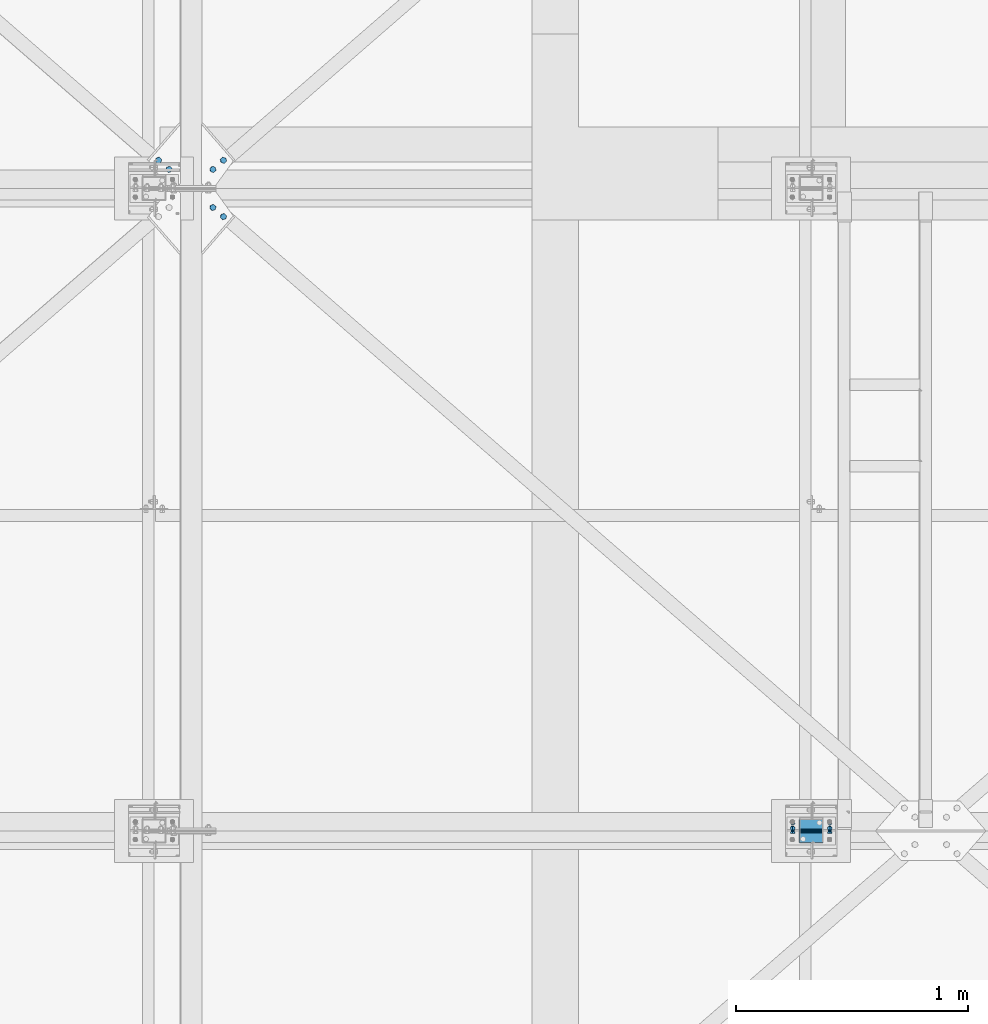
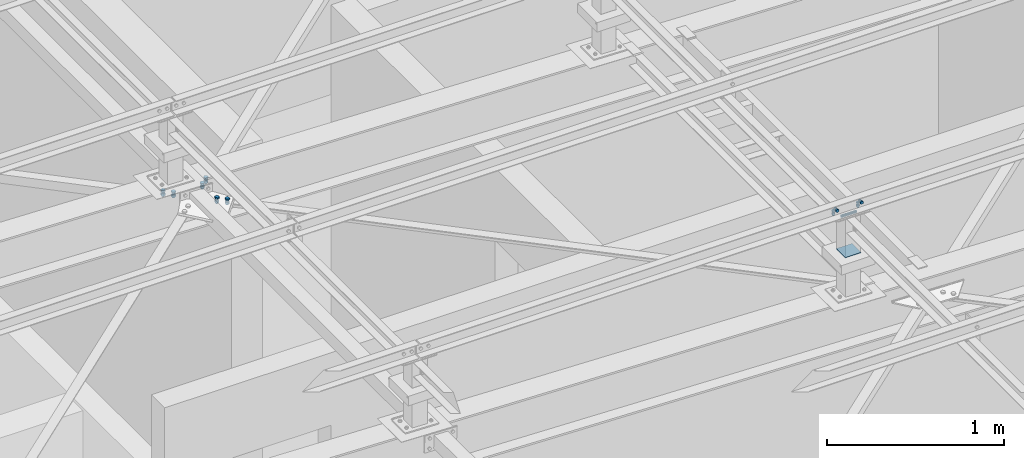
# One storey, part 242 of 3134: 7 mechanical fasteners, 4 elements without a shape of their own.
"""IFC2X3 building model written with IfcOpenShell, lengths in millimetres."""

from ifc_helpers import new_model, si_unit, frame, origin_with_axes, place, context, subcontext, project, spatial, faceted_brep, source, transform, mapped, material, type_object, element, aggregate, save


model = new_model("IFC2X3")

# Units and contexts
model_context = context("Model", 3, precision=1e-05, world=origin_with_axes())
body_context = subcontext(model_context, "Body", "Model", "MODEL_VIEW")
ifc_project = project(units=[si_unit("LENGTHUNIT", "METRE", prefix="MILLI"), si_unit("AREAUNIT", "SQUARE_METRE"), si_unit("VOLUMEUNIT", "CUBIC_METRE"), si_unit("MASSUNIT", "GRAM", prefix="KILO"), si_unit("TIMEUNIT", "SECOND"), si_unit("PLANEANGLEUNIT", "RADIAN"), si_unit("SOLIDANGLEUNIT", "STERADIAN"), si_unit("THERMODYNAMICTEMPERATUREUNIT", "DEGREE_CELSIUS"), si_unit("LUMINOUSINTENSITYUNIT", "LUMEN")], contexts=[model_context])

# Site, building, storey
site_placement = place(None, origin_with_axes())
site = spatial("IfcSite", under=ifc_project, at=site_placement, CompositionType="ELEMENT")
building_placement = place(site_placement, origin_with_axes())
building = spatial("IfcBuilding", under=site, at=building_placement, Name="Undefined", CompositionType="ELEMENT")
storey_placement = place(building_placement, origin_with_axes())
storey = spatial("IfcBuildingStorey", under=building, at=storey_placement, Name="Undefined", CompositionType="ELEMENT", Elevation=0.0)

# Assembly, mechanical fastener
assembly_1_placement = place(storey_placement, origin_with_axes())
assembly_1 = element("IfcElementAssembly", 1, at=assembly_1_placement, inside=storey, AssemblyPlace="NOTDEFINED", PredefinedType="RIGID_FRAME")
ifc_material_1 = material(Name="8.8")
mechanical_fastener_type = type_object("IfcMechanicalFastenerType", Name="Bolt assembly")
shared_shape_1 = source(origin_with_axes(), body_context, "Body", "Brep", [
    faceted_brep([(10.9696551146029, -14.0, 0.0), (5.48482755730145, -14.0, 9.5), (-5.48482755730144, -14.0, 9.5), (-10.9696551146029, -14.0, 1.34339530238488e-15), (-5.48482755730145, -14.0, -9.5), (5.48482755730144, -14.0, -9.50000000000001), (5.48482755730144, -6.0, -9.50000000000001), (-5.48482755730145, -6.0, -9.5), (-10.9696551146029, -6.0, 1.34339530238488e-15), (-5.48482755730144, -6.0, 9.5), (5.48482755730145, -6.0, 9.5), (10.9696551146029, -6.0, 0.0), (6.0, -6.0, 0.0), (5.19615242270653, -6.0, 3.00000000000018), (2.99999999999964, -6.0, 5.19615242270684), (-6.21801588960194e-13, -6.0, 6.0), (-3.00000000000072, -6.0, 5.19615242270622), (-5.19615242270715, -6.0, 2.9999999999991), (-6.0, -6.0, -1.24360317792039e-12), (-5.19615242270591, -6.0, -3.00000000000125), (-2.99999999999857, -6.0, -5.19615242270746), (1.85874342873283e-12, -6.0, -6.0), (3.00000000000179, -6.0, -5.1961524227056), (5.19615242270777, -6.0, -2.99999999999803), (5.19615242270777, 24.0, -2.99999999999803), (3.00000000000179, 24.0, -5.1961524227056), (1.85874342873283e-12, 24.0, -6.0), (-2.99999999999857, 24.0, -5.19615242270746), (-5.19615242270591, 24.0, -3.00000000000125), (-6.0, 24.0, -1.24360317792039e-12), (-5.19615242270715, 24.0, 2.9999999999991), (-3.00000000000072, 24.0, 5.19615242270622), (-6.21801588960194e-13, 24.0, 6.0), (2.99999999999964, 24.0, 5.19615242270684), (5.19615242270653, 24.0, 3.00000000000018), (6.0, 24.0, 0.0), (10.9696551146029, 6.00000000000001, 0.0), (5.48482755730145, 6.00000000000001, 9.5), (-5.48482755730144, 6.00000000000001, 9.5), (-10.9696551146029, 6.00000000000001, 1.34339530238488e-15), (-5.48482755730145, 6.00000000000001, -9.5), (5.48482755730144, 6.00000000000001, -9.50000000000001), (5.48482755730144, 16.0, -9.50000000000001), (-5.48482755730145, 16.0, -9.5), (-10.9696551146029, 16.0, 1.34339530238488e-15), (-5.48482755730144, 16.0, 9.5), (5.48482755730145, 16.0, 9.5), (10.9696551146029, 16.0, 0.0)], [[[0, 1, 2, 3, 4, 5]], [[6, 7, 8, 9, 10, 11]], [[0, 11, 10, 1]], [[1, 10, 9, 2]], [[2, 9, 8, 3]], [[3, 8, 7, 4]], [[4, 7, 6, 5]], [[5, 6, 11, 0]], [[12, 13, 14, 15, 16, 17, 18, 19, 20, 21, 22, 23]], [[24, 25, 26, 27, 28, 29, 30, 31, 32, 33, 34, 35]], [[12, 35, 34, 13]], [[13, 34, 33, 14]], [[14, 33, 32, 15]], [[15, 32, 31, 16]], [[16, 31, 30, 17]], [[17, 30, 29, 18]], [[18, 29, 28, 19]], [[19, 28, 27, 20]], [[20, 27, 26, 21]], [[21, 26, 25, 22]], [[22, 25, 24, 23]], [[23, 24, 35, 12]], [[36, 37, 38, 39, 40, 41]], [[42, 43, 44, 45, 46, 47]], [[36, 47, 46, 37]], [[37, 46, 45, 38]], [[38, 45, 44, 39]], [[39, 44, 43, 40]], [[40, 43, 42, 41]], [[41, 42, 47, 36]]]),
    faceted_brep([(7.0, -0.1, 0.0), (6.06217782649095, -0.1, 3.50000000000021), (3.49999999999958, -0.1, 6.06217782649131), (-7.25435187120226e-13, -0.1, 7.0), (-3.50000000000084, -0.1, 6.06217782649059), (-6.06217782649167, -0.1, 3.49999999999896), (-7.0, -0.1, -1.45087037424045e-12), (-6.06217782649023, -0.1, -3.50000000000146), (-3.49999999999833, -0.1, -6.06217782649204), (2.1685340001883e-12, -0.1, -7.0), (3.50000000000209, -0.1, -6.06217782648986), (6.0621778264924, -0.1, -3.4999999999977), (6.0621778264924, 6.00000000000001, -3.4999999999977), (3.50000000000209, 6.00000000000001, -6.06217782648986), (2.1685340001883e-12, 6.00000000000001, -7.0), (-3.49999999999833, 6.00000000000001, -6.06217782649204), (-6.06217782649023, 6.00000000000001, -3.50000000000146), (-7.0, 6.00000000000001, -1.45087037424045e-12), (-6.06217782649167, 6.00000000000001, 3.49999999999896), (-3.50000000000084, 6.00000000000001, 6.06217782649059), (-7.25435187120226e-13, 6.00000000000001, 7.0), (3.49999999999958, 6.00000000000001, 6.06217782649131), (6.06217782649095, 6.00000000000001, 3.50000000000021), (7.0, 6.00000000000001, 0.0), (7.0, -5.9, 0.0), (6.06217782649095, -5.9, 3.50000000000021), (3.49999999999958, -5.9, 6.06217782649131), (-7.25435187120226e-13, -5.9, 7.0), (-3.50000000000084, -5.9, 6.06217782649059), (-6.06217782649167, -5.9, 3.49999999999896), (-7.0, -5.9, -1.45087037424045e-12), (-6.06217782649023, -5.9, -3.50000000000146), (-3.49999999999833, -5.9, -6.06217782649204), (2.1685340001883e-12, -5.9, -7.0), (3.50000000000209, -5.9, -6.06217782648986), (6.0621778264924, -5.9, -3.4999999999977), (6.0621778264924, 0.0999999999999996, -3.4999999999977), (3.50000000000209, 0.0999999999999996, -6.06217782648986), (2.1685340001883e-12, 0.0999999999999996, -7.0), (-3.49999999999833, 0.0999999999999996, -6.06217782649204), (-6.06217782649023, 0.0999999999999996, -3.50000000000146), (-7.0, 0.0999999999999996, -1.45087037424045e-12), (-6.06217782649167, 0.0999999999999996, 3.49999999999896), (-3.50000000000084, 0.0999999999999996, 6.06217782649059), (-7.25435187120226e-13, 0.0999999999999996, 7.0), (3.49999999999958, 0.0999999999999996, 6.06217782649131), (6.06217782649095, 0.0999999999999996, 3.50000000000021), (7.0, 0.0999999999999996, 0.0)], [[[0, 1, 2, 3, 4, 5, 6, 7, 8, 9, 10, 11]], [[12, 13, 14, 15, 16, 17, 18, 19, 20, 21, 22, 23]], [[0, 23, 22, 1]], [[1, 22, 21, 2]], [[2, 21, 20, 3]], [[3, 20, 19, 4]], [[4, 19, 18, 5]], [[5, 18, 17, 6]], [[6, 17, 16, 7]], [[7, 16, 15, 8]], [[8, 15, 14, 9]], [[9, 14, 13, 10]], [[10, 13, 12, 11]], [[11, 12, 23, 0]], [[24, 25, 26, 27, 28, 29, 30, 31, 32, 33, 34, 35]], [[36, 37, 38, 39, 40, 41, 42, 43, 44, 45, 46, 47]], [[24, 47, 46, 25]], [[25, 46, 45, 26]], [[26, 45, 44, 27]], [[27, 44, 43, 28]], [[28, 43, 42, 29]], [[29, 42, 41, 30]], [[30, 41, 40, 31]], [[31, 40, 39, 32]], [[32, 39, 38, 33]], [[33, 38, 37, 34]], [[34, 37, 36, 35]], [[35, 36, 47, 24]]]),
])
mechanical_fastener_1_placement = place(assembly_1_placement, frame((28847.0, 58255.0, 10865.0), z_axis=(1.0, 0.0, 0.0), x_axis=(0.0, -1.0, 0.0)))
mechanical_fastener_1 = element("IfcMechanicalFastener", 2, at=mechanical_fastener_1_placement, type_object=mechanical_fastener_type, material=ifc_material_1, Name="Bolt assembly", NominalDiameter=12.0, NominalLength=30.0, context=body_context, shape_type="MappedRepresentation", body=[
    mapped(shared_shape_1, transform((0.0, -5.32963895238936e-10, -79.9999999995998))),
    mapped(shared_shape_1, transform((0.0, 5.3114490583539e-10, 79.9999999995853))),
])

# Assembly, mechanical fasteners
assembly_2_placement = place(storey_placement, origin_with_axes())
assembly_2 = element("IfcElementAssembly", 3, at=assembly_2_placement, inside=storey, AssemblyPlace="NOTDEFINED", PredefinedType="RIGID_FRAME")
shared_shape_2 = source(origin_with_axes(), body_context, "Body", "Brep", [
    faceted_brep([(9.0, -50.0, 0.0), (7.79422863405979, -50.0, 4.50000000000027), (4.49999999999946, -50.0, 7.79422863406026), (-9.3270238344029e-13, -50.0, 9.0), (-4.50000000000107, -50.0, 7.79422863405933), (-7.79422863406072, -50.0, 4.49999999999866), (-9.0, -50.0, -1.86540476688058e-12), (-7.79422863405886, -50.0, -4.50000000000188), (-4.49999999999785, -50.0, -7.79422863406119), (2.78811514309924e-12, -50.0, -9.0), (4.50000000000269, -50.0, -7.7942286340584), (7.79422863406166, -50.0, -4.49999999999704), (7.79422863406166, 50.1, -4.49999999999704), (4.50000000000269, 50.1, -7.7942286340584), (2.78811514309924e-12, 50.1, -9.0), (-4.49999999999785, 50.1, -7.79422863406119), (-7.79422863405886, 50.1, -4.50000000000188), (-9.0, 50.1, -1.86540476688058e-12), (-7.79422863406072, 50.1, 4.49999999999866), (-4.50000000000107, 50.1, 7.79422863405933), (-9.3270238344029e-13, 50.1, 9.0), (4.49999999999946, 50.1, 7.79422863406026), (7.79422863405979, 50.1, 4.50000000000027), (9.0, 50.1, 0.0)], [[[0, 1, 2, 3, 4, 5, 6, 7, 8, 9, 10, 11]], [[12, 13, 14, 15, 16, 17, 18, 19, 20, 21, 22, 23]], [[0, 23, 22, 1]], [[1, 22, 21, 2]], [[2, 21, 20, 3]], [[3, 20, 19, 4]], [[4, 19, 18, 5]], [[5, 18, 17, 6]], [[6, 17, 16, 7]], [[7, 16, 15, 8]], [[8, 15, 14, 9]], [[9, 14, 13, 10]], [[10, 13, 12, 11]], [[11, 12, 23, 0]]]),
])
mechanical_fastener_2_placement = place(assembly_2_placement, frame((28847.0, 58220.0, 10845.0), z_axis=(0.0, 1.0, 0.0), x_axis=(0.0, 0.0, 1.0)))
mechanical_fastener_2 = element("IfcMechanicalFastener", 4, at=mechanical_fastener_2_placement, type_object=mechanical_fastener_type, material=ifc_material_1, Name="Bolt assembly", NominalDiameter=16.0, NominalLength=100.0, context=body_context, shape_type="MappedRepresentation", body=[
    mapped(shared_shape_2, transform((0.0, 0.0, 0.0))),
])
ifc_material_2 = material(Name="6.8")
shared_shape_3 = source(origin_with_axes(), body_context, "Body", "Brep", [
    faceted_brep([(51.5, 1.36424205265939e-12, 50.0), (51.3858192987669, 1.36424205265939e-12, 50.5740251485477), (51.0606601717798, 1.36424205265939e-12, 51.0606601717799), (50.5740251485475, 1.36424205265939e-12, 51.385819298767), (-50.0000000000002, 1.36424205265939e-12, 51.5), (-50.7500000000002, 1.36424205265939e-12, 51.2990381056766), (-51.2990381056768, 1.36424205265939e-12, 50.7499999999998), (-51.5, 1.36424205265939e-12, 49.9999999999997), (-51.5, 1.36424205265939e-12, -50.0000000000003), (-51.2990381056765, 1.36424205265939e-12, -50.7500000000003), (-50.7499999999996, 1.36424205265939e-12, -51.2990381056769), (-49.9999999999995, 1.36424205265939e-12, -51.5), (50.0000000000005, 1.36424205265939e-12, -51.5), (50.7500000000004, 1.36424205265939e-12, -51.2990381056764), (51.2990381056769, 1.36424205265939e-12, -50.7499999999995), (51.5, 1.36424205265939e-12, -49.9999999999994), (51.5, 5.10000000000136, -49.9999999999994), (51.2990381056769, 5.10000000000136, -50.7499999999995), (50.7500000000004, 5.10000000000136, -51.2990381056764), (50.0000000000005, 5.10000000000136, -51.5), (-49.9999999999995, 5.10000000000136, -51.5), (-50.7499999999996, 5.10000000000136, -51.2990381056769), (-51.2990381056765, 5.10000000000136, -50.7500000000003), (-51.5, 5.10000000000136, -50.0000000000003), (-51.5, 5.10000000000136, 49.9999999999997), (-51.2990381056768, 5.10000000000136, 50.7499999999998), (-50.7500000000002, 5.10000000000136, 51.2990381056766), (-50.0000000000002, 5.10000000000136, 51.5), (50.5740251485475, 5.10000000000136, 51.385819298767), (51.0606601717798, 5.10000000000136, 51.0606601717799), (51.3858192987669, 5.10000000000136, 50.5740251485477), (51.5, 5.10000000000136, 50.0)], [[[0, 1, 2, 3, 4, 5, 6, 7, 8, 9, 10, 11, 12, 13, 14, 15]], [[16, 17, 18, 19, 20, 21, 22, 23, 24, 25, 26, 27, 28, 29, 30, 31]], [[0, 31, 30, 1]], [[1, 30, 29, 2]], [[2, 29, 28, 3]], [[3, 28, 27, 4]], [[4, 27, 26, 5]], [[5, 26, 25, 6]], [[6, 25, 24, 7]], [[7, 24, 23, 8]], [[8, 23, 22, 9]], [[9, 22, 21, 10]], [[10, 21, 20, 11]], [[11, 20, 19, 12]], [[12, 19, 18, 13]], [[13, 18, 17, 14]], [[14, 17, 16, 15]], [[15, 16, 31, 0]]]),
])
mechanical_fastener_3_placement = place(assembly_2_placement, frame((28847.0, 58220.0, 10591.54), z_axis=(0.0, -1.0, 0.0), x_axis=(-1.0, 0.0, 0.0)))
mechanical_fastener_3 = element("IfcMechanicalFastener", 5, at=mechanical_fastener_3_placement, type_object=mechanical_fastener_type, material=ifc_material_2, Name="Bolt assembly", NominalDiameter=10.0, NominalLength=5.0, context=body_context, shape_type="MappedRepresentation", body=[
    mapped(shared_shape_3, transform((0.0, 0.0, 0.0))),
])
aggregate(assembly_2, [mechanical_fastener_2, mechanical_fastener_3])

# Mechanical fastener
shared_shape_4 = source(origin_with_axes(), body_context, "Body", "Brep", [
    faceted_brep([(10.9696551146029, -12.0, 0.0), (5.48482755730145, -12.0, 9.5), (-5.48482755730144, -12.0, 9.5), (-10.9696551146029, -12.0, 1.34339530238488e-15), (-5.48482755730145, -12.0, -9.5), (5.48482755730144, -12.0, -9.50000000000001), (5.48482755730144, -4.0, -9.50000000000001), (-5.48482755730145, -4.0, -9.5), (-10.9696551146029, -4.0, 1.34339530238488e-15), (-5.48482755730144, -4.0, 9.5), (5.48482755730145, -4.0, 9.5), (10.9696551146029, -4.0, 0.0), (6.0, -4.0, 0.0), (5.19615242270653, -4.0, 3.00000000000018), (2.99999999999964, -4.0, 5.19615242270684), (-6.21801588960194e-13, -4.0, 6.0), (-3.00000000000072, -4.0, 5.19615242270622), (-5.19615242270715, -4.0, 2.9999999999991), (-6.0, -4.0, -1.24360317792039e-12), (-5.19615242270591, -4.0, -3.00000000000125), (-2.99999999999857, -4.0, -5.19615242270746), (1.85874342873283e-12, -4.0, -6.0), (3.00000000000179, -4.0, -5.1961524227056), (5.19615242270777, -4.0, -2.99999999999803), (5.19615242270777, 21.0, -2.99999999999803), (3.00000000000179, 21.0, -5.1961524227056), (1.85874342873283e-12, 21.0, -6.0), (-2.99999999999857, 21.0, -5.19615242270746), (-5.19615242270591, 21.0, -3.00000000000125), (-6.0, 21.0, -1.24360317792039e-12), (-5.19615242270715, 21.0, 2.9999999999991), (-3.00000000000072, 21.0, 5.19615242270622), (-6.21801588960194e-13, 21.0, 6.0), (2.99999999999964, 21.0, 5.19615242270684), (5.19615242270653, 21.0, 3.00000000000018), (6.0, 21.0, 0.0), (10.9696551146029, 6.00000000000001, 0.0), (5.48482755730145, 6.00000000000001, 9.5), (-5.48482755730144, 6.00000000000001, 9.5), (-10.9696551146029, 6.00000000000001, 1.34339530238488e-15), (-5.48482755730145, 6.00000000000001, -9.5), (5.48482755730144, 6.00000000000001, -9.50000000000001), (5.48482755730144, 16.0, -9.50000000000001), (-5.48482755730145, 16.0, -9.5), (-10.9696551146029, 16.0, 1.34339530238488e-15), (-5.48482755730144, 16.0, 9.5), (5.48482755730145, 16.0, 9.5), (10.9696551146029, 16.0, 0.0)], [[[0, 1, 2, 3, 4, 5]], [[6, 7, 8, 9, 10, 11]], [[0, 11, 10, 1]], [[1, 10, 9, 2]], [[2, 9, 8, 3]], [[3, 8, 7, 4]], [[4, 7, 6, 5]], [[5, 6, 11, 0]], [[12, 13, 14, 15, 16, 17, 18, 19, 20, 21, 22, 23]], [[24, 25, 26, 27, 28, 29, 30, 31, 32, 33, 34, 35]], [[12, 35, 34, 13]], [[13, 34, 33, 14]], [[14, 33, 32, 15]], [[15, 32, 31, 16]], [[16, 31, 30, 17]], [[17, 30, 29, 18]], [[18, 29, 28, 19]], [[19, 28, 27, 20]], [[20, 27, 26, 21]], [[21, 26, 25, 22]], [[22, 25, 24, 23]], [[23, 24, 35, 12]], [[36, 37, 38, 39, 40, 41]], [[42, 43, 44, 45, 46, 47]], [[36, 47, 46, 37]], [[37, 46, 45, 38]], [[38, 45, 44, 39]], [[39, 44, 43, 40]], [[40, 43, 42, 41]], [[41, 42, 47, 36]]]),
    faceted_brep([(7.0, -3.9, 0.0), (6.06217782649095, -3.9, 3.50000000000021), (3.49999999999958, -3.9, 6.06217782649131), (-7.25435187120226e-13, -3.9, 7.0), (-3.50000000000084, -3.9, 6.06217782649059), (-6.06217782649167, -3.9, 3.49999999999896), (-7.0, -3.9, -1.45087037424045e-12), (-6.06217782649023, -3.9, -3.50000000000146), (-3.49999999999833, -3.9, -6.06217782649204), (2.1685340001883e-12, -3.9, -7.0), (3.50000000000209, -3.9, -6.06217782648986), (6.0621778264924, -3.9, -3.4999999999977), (6.0621778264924, 0.0999999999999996, -3.4999999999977), (3.50000000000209, 0.0999999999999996, -6.06217782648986), (2.1685340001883e-12, 0.0999999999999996, -7.0), (-3.49999999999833, 0.0999999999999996, -6.06217782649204), (-6.06217782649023, 0.0999999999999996, -3.50000000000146), (-7.0, 0.0999999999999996, -1.45087037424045e-12), (-6.06217782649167, 0.0999999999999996, 3.49999999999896), (-3.50000000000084, 0.0999999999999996, 6.06217782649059), (-7.25435187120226e-13, 0.0999999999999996, 7.0), (3.49999999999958, 0.0999999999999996, 6.06217782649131), (6.06217782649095, 0.0999999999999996, 3.50000000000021), (7.0, 0.0999999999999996, 0.0), (7.0, -0.1, 0.0), (6.06217782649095, -0.1, 3.50000000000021), (3.49999999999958, -0.1, 6.06217782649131), (-7.25435187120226e-13, -0.1, 7.0), (-3.50000000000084, -0.1, 6.06217782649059), (-6.06217782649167, -0.1, 3.49999999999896), (-7.0, -0.1, -1.45087037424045e-12), (-6.06217782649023, -0.1, -3.50000000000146), (-3.49999999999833, -0.1, -6.06217782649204), (2.1685340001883e-12, -0.1, -7.0), (3.50000000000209, -0.1, -6.06217782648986), (6.0621778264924, -0.1, -3.4999999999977), (6.0621778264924, 6.00000000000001, -3.4999999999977), (3.50000000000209, 6.00000000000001, -6.06217782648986), (2.1685340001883e-12, 6.00000000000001, -7.0), (-3.49999999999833, 6.00000000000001, -6.06217782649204), (-6.06217782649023, 6.00000000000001, -3.50000000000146), (-7.0, 6.00000000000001, -1.45087037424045e-12), (-6.06217782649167, 6.00000000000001, 3.49999999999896), (-3.50000000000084, 6.00000000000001, 6.06217782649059), (-7.25435187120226e-13, 6.00000000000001, 7.0), (3.49999999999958, 6.00000000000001, 6.06217782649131), (6.06217782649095, 6.00000000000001, 3.50000000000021), (7.0, 6.00000000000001, 0.0)], [[[0, 1, 2, 3, 4, 5, 6, 7, 8, 9, 10, 11]], [[12, 13, 14, 15, 16, 17, 18, 19, 20, 21, 22, 23]], [[0, 23, 22, 1]], [[1, 22, 21, 2]], [[2, 21, 20, 3]], [[3, 20, 19, 4]], [[4, 19, 18, 5]], [[5, 18, 17, 6]], [[6, 17, 16, 7]], [[7, 16, 15, 8]], [[8, 15, 14, 9]], [[9, 14, 13, 10]], [[10, 13, 12, 11]], [[11, 12, 23, 0]], [[24, 25, 26, 27, 28, 29, 30, 31, 32, 33, 34, 35]], [[36, 37, 38, 39, 40, 41, 42, 43, 44, 45, 46, 47]], [[24, 47, 46, 25]], [[25, 46, 45, 26]], [[26, 45, 44, 27]], [[27, 44, 43, 28]], [[28, 43, 42, 29]], [[29, 42, 41, 30]], [[30, 41, 40, 31]], [[31, 40, 39, 32]], [[32, 39, 38, 33]], [[33, 38, 37, 34]], [[34, 37, 36, 35]], [[35, 36, 47, 24]]]),
])
mechanical_fastener_4_placement = place(assembly_1_placement, frame((28847.0, 58220.0, 10900.0), z_axis=(1.0, 0.0, 0.0), x_axis=(0.0, 0.0, -1.0)))
mechanical_fastener_4 = element("IfcMechanicalFastener", 6, at=mechanical_fastener_4_placement, type_object=mechanical_fastener_type, material=ifc_material_1, Name="Bolt assembly", NominalDiameter=12.0, NominalLength=25.0, context=body_context, shape_type="MappedRepresentation", body=[
    mapped(shared_shape_4, transform((0.0, -5.32963895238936e-10, -79.9999999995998))),
    mapped(shared_shape_4, transform((0.0, 5.3114490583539e-10, 79.9999999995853))),
])

aggregate(assembly_1, [mechanical_fastener_4, mechanical_fastener_1])

# Assembly, mechanical fasteners
assembly_3_placement = place(storey_placement, origin_with_axes())
assembly_3 = element("IfcElementAssembly", 7, at=assembly_3_placement, inside=storey, AssemblyPlace="NOTDEFINED", PredefinedType="RIGID_FRAME")
shared_shape_5 = source(origin_with_axes(), body_context, "Body", "Brep", [
    faceted_brep([(13.856406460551, -14.0, 0.0), (6.92820323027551, -14.0, 12.0), (-6.92820323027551, -14.0, 12.0), (-13.856406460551, -14.0, 1.69692038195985e-15), (-6.92820323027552, -14.0, -12.0), (6.9282032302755, -14.0, -12.0), (6.9282032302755, -4.00000145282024, -12.0), (-6.92820323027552, -4.00000145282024, -12.0), (-13.856406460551, -4.00000145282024, 1.69692038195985e-15), (-6.92820323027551, -4.00000145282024, 12.0), (6.92820323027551, -4.00000145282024, 12.0), (13.856406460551, -4.00000145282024, 0.0), (8.0, -4.00000145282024, 0.0), (6.92820323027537, -4.00000145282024, 4.00000000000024), (3.99999999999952, -4.00000145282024, 6.92820323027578), (-8.29068785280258e-13, -4.00000145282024, 8.0), (-4.00000000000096, -4.00000145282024, 6.92820323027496), (-6.9282032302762, -4.00000145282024, 3.99999999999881), (-8.0, -4.00000145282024, -1.65813757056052e-12), (-6.92820323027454, -4.00000145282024, -4.00000000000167), (-3.99999999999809, -4.00000145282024, -6.92820323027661), (2.47832457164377e-12, -4.00000145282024, -8.0), (4.00000000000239, -4.00000145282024, -6.92820323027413), (6.92820323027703, -4.00000145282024, -3.99999999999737), (6.92820323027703, 31.0, -3.99999999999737), (4.00000000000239, 31.0, -6.92820323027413), (2.47832457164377e-12, 31.0, -8.0), (-3.99999999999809, 31.0, -6.92820323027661), (-6.92820323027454, 31.0, -4.00000000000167), (-8.0, 31.0, -1.65813757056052e-12), (-6.9282032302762, 31.0, 3.99999999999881), (-4.00000000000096, 31.0, 6.92820323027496), (-8.29068785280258e-13, 31.0, 8.0), (3.99999999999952, 31.0, 6.92820323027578), (6.92820323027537, 31.0, 4.00000000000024), (8.0, 31.0, 0.0), (13.856406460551, 9.99999995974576, 0.0), (6.92820323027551, 9.99999995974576, 12.0), (-6.92820323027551, 9.99999995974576, 12.0), (-13.856406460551, 9.99999995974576, 1.69692038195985e-15), (-6.92820323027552, 9.99999995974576, -12.0), (6.9282032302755, 9.99999995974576, -12.0), (6.9282032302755, 22.9999913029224, -12.0), (-6.92820323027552, 22.9999913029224, -12.0), (-13.856406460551, 22.9999913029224, 1.69692038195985e-15), (-6.92820323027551, 22.9999913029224, 12.0), (6.92820323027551, 22.9999913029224, 12.0), (13.856406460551, 22.9999913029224, 0.0)], [[[0, 1, 2, 3, 4, 5]], [[6, 7, 8, 9, 10, 11]], [[0, 11, 10, 1]], [[1, 10, 9, 2]], [[2, 9, 8, 3]], [[3, 8, 7, 4]], [[4, 7, 6, 5]], [[5, 6, 11, 0]], [[12, 13, 14, 15, 16, 17, 18, 19, 20, 21, 22, 23]], [[24, 25, 26, 27, 28, 29, 30, 31, 32, 33, 34, 35]], [[12, 35, 34, 13]], [[13, 34, 33, 14]], [[14, 33, 32, 15]], [[15, 32, 31, 16]], [[16, 31, 30, 17]], [[17, 30, 29, 18]], [[18, 29, 28, 19]], [[19, 28, 27, 20]], [[20, 27, 26, 21]], [[21, 26, 25, 22]], [[22, 25, 24, 23]], [[23, 24, 35, 12]], [[36, 37, 38, 39, 40, 41]], [[42, 43, 44, 45, 46, 47]], [[36, 47, 46, 37]], [[37, 46, 45, 38]], [[38, 45, 44, 39]], [[39, 44, 43, 40]], [[40, 43, 42, 41]], [[41, 42, 47, 36]]]),
    faceted_brep([(9.0, 3.9, 0.0), (7.79422863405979, 3.9, 4.50000000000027), (4.49999999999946, 3.9, 7.79422863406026), (-9.3270238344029e-13, 3.9, 9.0), (-4.50000000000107, 3.9, 7.79422863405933), (-7.79422863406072, 3.9, 4.49999999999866), (-9.0, 3.9, -1.86540476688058e-12), (-7.79422863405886, 3.9, -4.50000000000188), (-4.49999999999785, 3.9, -7.79422863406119), (2.78811514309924e-12, 3.9, -9.0), (4.50000000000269, 3.9, -7.7942286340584), (7.79422863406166, 3.9, -4.49999999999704), (7.79422863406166, 9.99999995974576, -4.49999999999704), (4.50000000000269, 9.99999995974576, -7.7942286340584), (2.78811514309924e-12, 9.99999995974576, -9.0), (-4.49999999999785, 9.99999995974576, -7.79422863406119), (-7.79422863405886, 9.99999995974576, -4.50000000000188), (-9.0, 9.99999995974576, -1.86540476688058e-12), (-7.79422863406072, 9.99999995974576, 4.49999999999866), (-4.50000000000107, 9.99999995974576, 7.79422863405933), (-9.3270238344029e-13, 9.99999995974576, 9.0), (4.49999999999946, 9.99999995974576, 7.79422863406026), (7.79422863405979, 9.99999995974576, 4.50000000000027), (9.0, 9.99999995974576, 0.0), (9.0, -3.9, 0.0), (7.79422863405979, -3.9, 4.50000000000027), (4.49999999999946, -3.9, 7.79422863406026), (-9.3270238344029e-13, -3.9, 9.0), (-4.50000000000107, -3.9, 7.79422863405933), (-7.79422863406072, -3.9, 4.49999999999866), (-9.0, -3.9, -1.86540476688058e-12), (-7.79422863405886, -3.9, -4.50000000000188), (-4.49999999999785, -3.9, -7.79422863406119), (2.78811514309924e-12, -3.9, -9.0), (4.50000000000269, -3.9, -7.7942286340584), (7.79422863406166, -3.9, -4.49999999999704), (7.79422863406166, 4.09999854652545, -4.49999999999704), (4.50000000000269, 4.09999854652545, -7.7942286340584), (2.78811514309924e-12, 4.09999854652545, -9.0), (-4.49999999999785, 4.09999854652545, -7.79422863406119), (-7.79422863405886, 4.09999854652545, -4.50000000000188), (-9.0, 4.09999854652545, -1.86540476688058e-12), (-7.79422863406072, 4.09999854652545, 4.49999999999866), (-4.50000000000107, 4.09999854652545, 7.79422863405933), (-9.3270238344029e-13, 4.09999854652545, 9.0), (4.49999999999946, 4.09999854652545, 7.79422863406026), (7.79422863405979, 4.09999854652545, 4.50000000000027), (9.0, 4.09999854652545, 0.0)], [[[0, 1, 2, 3, 4, 5, 6, 7, 8, 9, 10, 11]], [[12, 13, 14, 15, 16, 17, 18, 19, 20, 21, 22, 23]], [[0, 23, 22, 1]], [[1, 22, 21, 2]], [[2, 21, 20, 3]], [[3, 20, 19, 4]], [[4, 19, 18, 5]], [[5, 18, 17, 6]], [[6, 17, 16, 7]], [[7, 16, 15, 8]], [[8, 15, 14, 9]], [[9, 14, 13, 10]], [[10, 13, 12, 11]], [[11, 12, 23, 0]], [[24, 25, 26, 27, 28, 29, 30, 31, 32, 33, 34, 35]], [[36, 37, 38, 39, 40, 41, 42, 43, 44, 45, 46, 47]], [[24, 47, 46, 25]], [[25, 46, 45, 26]], [[26, 45, 44, 27]], [[27, 44, 43, 28]], [[28, 43, 42, 29]], [[29, 42, 41, 30]], [[30, 41, 40, 31]], [[31, 40, 39, 32]], [[32, 39, 38, 33]], [[33, 38, 37, 34]], [[34, 37, 36, 35]], [[35, 36, 47, 24]]]),
])
mechanical_fastener_5_placement = place(assembly_3_placement, frame((26271.8496500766, 61066.9399703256, 10224.6057993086), z_axis=(-0.655203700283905, 0.755179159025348, 0.0203113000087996), x_axis=(0.754816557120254, 0.655518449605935, -0.0233993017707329)))
mechanical_fastener_5 = element("IfcMechanicalFastener", 8, at=mechanical_fastener_5_placement, type_object=mechanical_fastener_type, material=ifc_material_1, Name="Bolt assembly", NominalDiameter=16.0, NominalLength=35.0, context=body_context, shape_type="MappedRepresentation", body=[
    mapped(shared_shape_5, transform((0.0, 0.0, 0.0))),
    mapped(shared_shape_5, transform((59.9999999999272, 0.0, 5.40239852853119e-10))),
])
mechanical_fastener_6_placement = place(assembly_3_placement, frame((26083.1409931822, 61066.9399703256, 10230.4557676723), z_axis=(-0.655203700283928, -0.755179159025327, 0.0203113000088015), x_axis=(-0.754816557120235, 0.655518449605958, 0.0233993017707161)))
mechanical_fastener_6 = element("IfcMechanicalFastener", 9, at=mechanical_fastener_6_placement, type_object=mechanical_fastener_type, material=ifc_material_1, Name="Bolt assembly", NominalDiameter=16.0, NominalLength=35.0, context=body_context, shape_type="MappedRepresentation", body=[
    mapped(shared_shape_5, transform((0.0, 0.0, 0.0))),
    mapped(shared_shape_5, transform((59.9999999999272, 0.0, 5.40239852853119e-10))),
])
aggregate(assembly_3, [mechanical_fastener_5, mechanical_fastener_6])

# Assembly, mechanical fastener
assembly_4_placement = place(storey_placement, origin_with_axes())
assembly_4 = element("IfcElementAssembly", 10, at=assembly_4_placement, inside=storey, AssemblyPlace="NOTDEFINED", PredefinedType="RIGID_FRAME")
mechanical_fastener_7_placement = place(assembly_4_placement, frame((26271.8496487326, 60903.0600296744, 10224.6057993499), z_axis=(0.65520370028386, 0.755179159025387, -0.0203113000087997), x_axis=(0.754816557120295, -0.655518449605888, -0.0233993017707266)))
mechanical_fastener_7 = element("IfcMechanicalFastener", 11, at=mechanical_fastener_7_placement, type_object=mechanical_fastener_type, material=ifc_material_1, Name="Bolt assembly", NominalDiameter=16.0, NominalLength=35.0, context=body_context, shape_type="MappedRepresentation", body=[
    mapped(shared_shape_5, transform((0.0, 0.0, 0.0))),
    mapped(shared_shape_5, transform((59.9999999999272, 0.0, 5.40239852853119e-10))),
])
aggregate(assembly_4, [mechanical_fastener_7])

save(model, "model.ifc")
